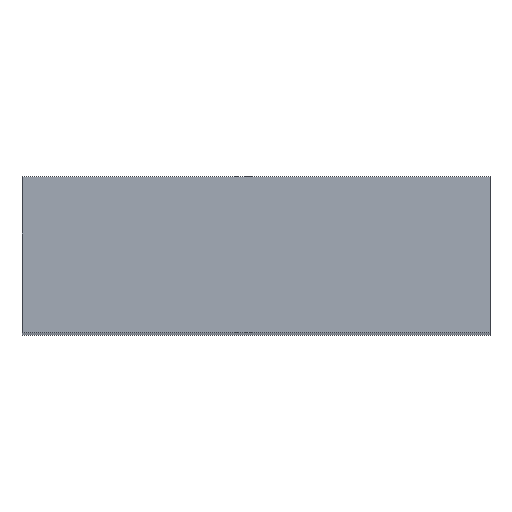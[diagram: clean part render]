
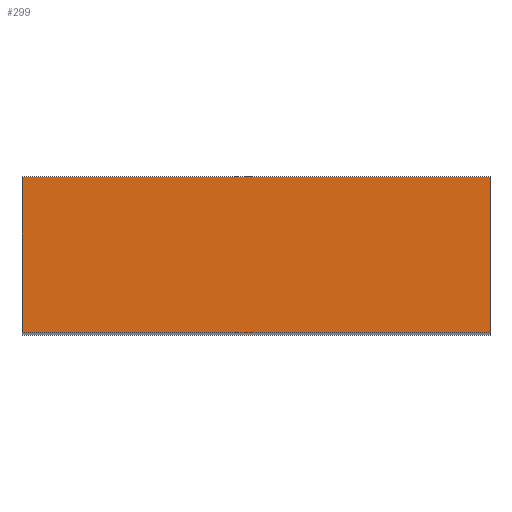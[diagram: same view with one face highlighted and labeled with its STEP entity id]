
A CAD part, top view. The second image highlights one B-rep face of the part: STEP entity #299.
In plain terms, the highlighted planar face has unit normal (0, 0, 1).
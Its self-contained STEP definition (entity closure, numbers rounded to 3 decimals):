
#5 = VECTOR ( 'NONE', #59, 1000. ) ;
#11 = VECTOR ( 'NONE', #309, 1000. ) ;
#21 = CARTESIAN_POINT ( 'NONE',  ( 60., 20., 0. ) ) ;
#27 = LINE ( 'NONE', #121, #11 ) ;
#31 = CARTESIAN_POINT ( 'NONE',  ( 0., 20., 0. ) ) ;
#33 = CARTESIAN_POINT ( 'NONE',  ( 60., 20., 0. ) ) ;
#40 = VERTEX_POINT ( 'NONE', #243 ) ;
#50 = LINE ( 'NONE', #21, #250 ) ;
#59 = DIRECTION ( 'NONE',  ( 0., -1., 0. ) ) ;
#80 = DIRECTION ( 'NONE',  ( 1., 0., 0. ) ) ;
#84 = ORIENTED_EDGE ( 'NONE', *, *, #122, .F. ) ;
#88 = DIRECTION ( 'NONE',  ( -1., 0., 0. ) ) ;
#93 = ORIENTED_EDGE ( 'NONE', *, *, #184, .T. ) ;
#115 = EDGE_CURVE ( 'NONE', #40, #203, #27, .T. ) ;
#120 = DIRECTION ( 'NONE',  ( 0., -1., 0. ) ) ;
#121 = CARTESIAN_POINT ( 'NONE',  ( 0., 0., 0. ) ) ;
#122 = EDGE_CURVE ( 'NONE', #245, #203, #50, .T. ) ;
#123 = FACE_OUTER_BOUND ( 'NONE', #142, .T. ) ;
#124 = VECTOR ( 'NONE', #80, 1000. ) ;
#129 = CARTESIAN_POINT ( 'NONE',  ( 0., 20., 0. ) ) ;
#142 = EDGE_LOOP ( 'NONE', ( #156, #84, #174, #93 ) ) ;
#143 = EDGE_CURVE ( 'NONE', #253, #245, #144, .T. ) ;
#144 = LINE ( 'NONE', #274, #124 ) ;
#156 = ORIENTED_EDGE ( 'NONE', *, *, #115, .T. ) ;
#174 = ORIENTED_EDGE ( 'NONE', *, *, #143, .F. ) ;
#182 = LINE ( 'NONE', #31, #5 ) ;
#184 = EDGE_CURVE ( 'NONE', #253, #40, #182, .T. ) ;
#203 = VERTEX_POINT ( 'NONE', #247 ) ;
#204 = CARTESIAN_POINT ( 'NONE',  ( 0., 20., 0. ) ) ;
#205 = AXIS2_PLACEMENT_3D ( 'NONE', #204, #206, #88 ) ;
#206 = DIRECTION ( 'NONE',  ( 0., 0., -1. ) ) ;
#243 = CARTESIAN_POINT ( 'NONE',  ( 0., 0., 0. ) ) ;
#245 = VERTEX_POINT ( 'NONE', #33 ) ;
#247 = CARTESIAN_POINT ( 'NONE',  ( 60., 0., 0. ) ) ;
#250 = VECTOR ( 'NONE', #120, 1000. ) ;
#253 = VERTEX_POINT ( 'NONE', #129 ) ;
#274 = CARTESIAN_POINT ( 'NONE',  ( 0., 20., 0. ) ) ;
#299 = ADVANCED_FACE ( 'NONE', ( #123 ), #304, .F. ) ;
#304 = PLANE ( 'NONE',  #205 ) ;
#309 = DIRECTION ( 'NONE',  ( 1., 0., 0. ) ) ;
